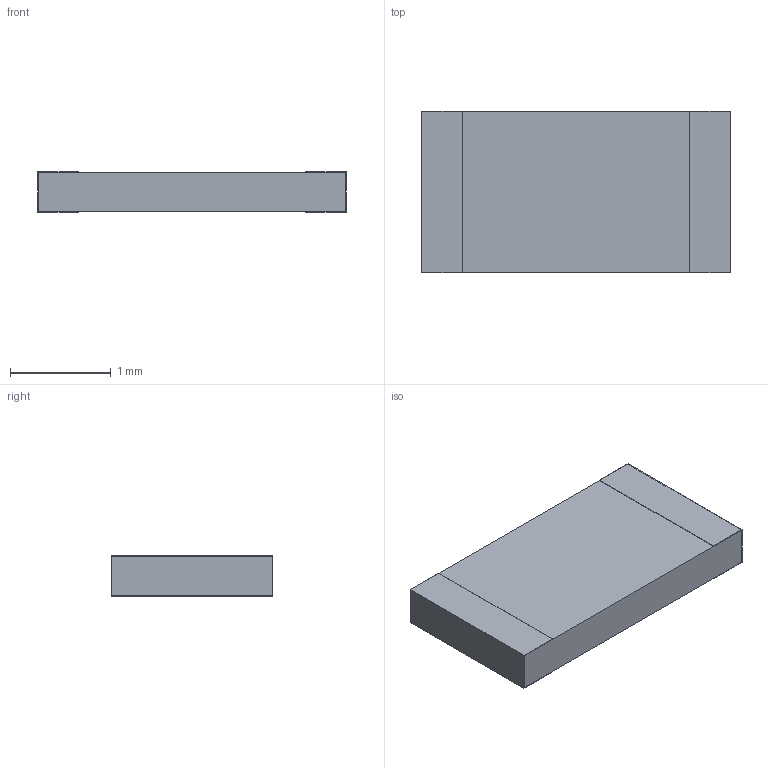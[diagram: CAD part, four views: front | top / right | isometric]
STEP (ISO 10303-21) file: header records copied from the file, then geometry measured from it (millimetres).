
FILE_DESCRIPTION(/* description */ (''),/* implementation_level */ '2;1');
FILE_NAME(/* name */ 'S:\DOCUMENT\AUTOCAD\3D_Modèles\10_3D-pour-VISHAY-COM\P\PVHT1206_G.stp',/* time_stamp */ '2018-01-31T10:15:54+01:00',/* author */ ('dparmentier'),/* organization */ ('unknown'),/* preprocessor_version */ 'ST-DEVELOPER v17',/* originating_system */ 'Autodesk Inventor 2018',/* authorisation */ '');
FILE_SCHEMA (('AUTOMOTIVE_DESIGN { 1 0 10303 214 3 1 1 }'));
Length unit declared in the file: millimetre
Products named in the file (1): PVHT1206_G
Bounding box: 3.06 x 1.6 x 0.4 mm (x, y, z)
Volume: 1.9 mm3; surface area: 21.1 mm2
Topology: 3 solids, 3 shells, 26 faces, 60 edges, 40 vertices
Faces by surface type: plane 26
Entity records: 775 total; most frequent: CARTESIAN_POINT 127, ORIENTED_EDGE 120, DIRECTION 114, LINE 60, VECTOR 60, EDGE_CURVE 60, VERTEX_POINT 40, AXIS2_PLACEMENT_3D 27
